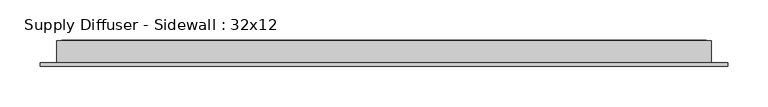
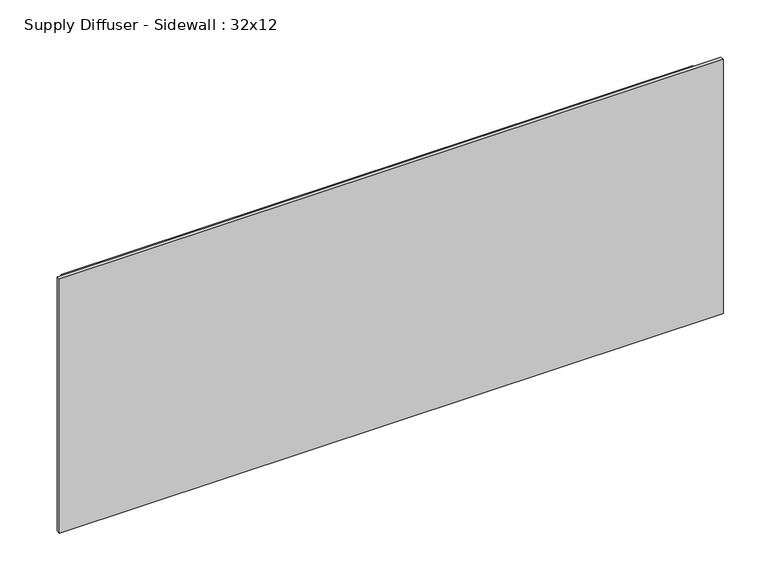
"""IFC4 building model written with IfcOpenShell, lengths in millimetres: air terminal geometry, Supply Diffuser - Sidewall : 32x12."""

from ifc_helpers import new_model, si_unit, origin, place, context, project, spatial, faceted_brep, source, transform, mapped, element, save


def supply_diffuser_sidewall_32x12_3c4b700d(model_context):
    return source(origin(), model_context, "Body", "Brep", [
        faceted_brep([(427.0375, -4.7625, 173.0375), (-427.0375, -4.7625, 173.0375), (-427.0375, -4.7625, -173.0375), (427.0375, -4.7625, -173.0375), (427.0375, 0.0, 173.0375), (427.0375, 0.0, -173.0375), (-427.0375, 0.0, -173.0375), (-427.0375, 0.0, 173.0375), (-406.4, 0.0, 152.4), (-406.4, 0.0, -152.4), (406.4, 0.0, -152.4), (406.4, 0.0, 152.4), (-406.4, 27.384375, 152.4), (406.4, 27.384375, 152.4), (406.4, 27.384375, -152.4), (-406.4, 27.384375, -152.4), (-400.05, 27.384375, 146.05), (-400.05, 27.384375, -146.05), (400.05, 27.384375, -146.05), (400.05, 27.384375, 146.05), (-400.05, 27.78125, 146.05), (400.05, 27.78125, 146.05), (400.05, 27.78125, -146.05), (-400.05, 27.78125, -146.05)], [[[0, 1, 2, 3]], [[4, 5, 6, 7], [8, 9, 10, 11]], [[1, 0, 4, 7]], [[2, 1, 7, 6]], [[3, 2, 6, 5]], [[0, 3, 5, 4]], [[12, 13, 14, 15], [16, 17, 18, 19]], [[12, 15, 9, 8]], [[15, 14, 10, 9]], [[14, 13, 11, 10]], [[13, 12, 8, 11]], [[20, 21, 22, 23]], [[20, 23, 17, 16]], [[23, 22, 18, 17]], [[22, 21, 19, 18]], [[21, 20, 16, 19]]]),
    ])


if __name__ == "__main__":
    model = new_model("IFC4")
    model_context = context("Model", 3, world=origin())
    ifc_project = project(units=[si_unit("LENGTHUNIT", "METRE", prefix="MILLI")], contexts=[model_context])
    site = spatial("IfcSite", under=ifc_project)
    building = spatial("IfcBuilding", under=site)
    placement = place(None, origin())
    supply_diffuser_sidewall_32x12_shape = supply_diffuser_sidewall_32x12_3c4b700d(model_context)
    element("IfcAirTerminal", 1, ObjectType="Supply Diffuser - Sidewall : 32x12", at=placement, inside=building, context=model_context, shape_type="MappedRepresentation", body=[
        mapped(supply_diffuser_sidewall_32x12_shape, transform((0.0, 0.0, 0.0), x_axis=(1.0, 0.0, 0.0), y_axis=(0.0, 1.0, 0.0), z_axis=(0.0, 0.0, 1.0))),
    ])
    save(model, "model.ifc")
